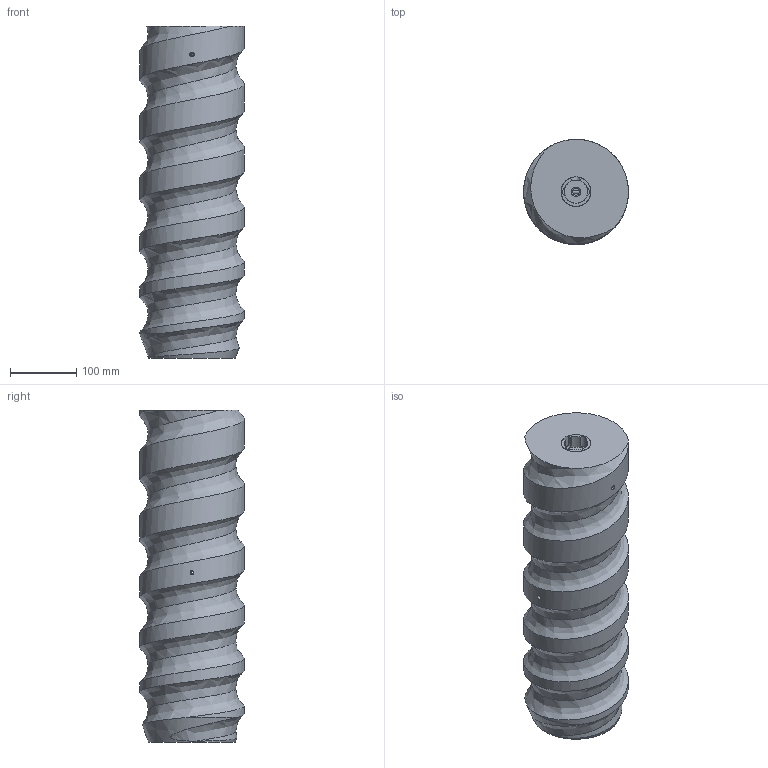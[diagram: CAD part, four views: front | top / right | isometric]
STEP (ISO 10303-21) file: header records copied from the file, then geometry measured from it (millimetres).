
FILE_DESCRIPTION(/* description */ ('Шнек'),/* implementation_level */ '2;1');
FILE_NAME(/* name */ 'B:\Inventor\Проекты\Омск\Ринзер CBI проект Bud 0.44\Файлы\Шнек\STEP\Шнек OMG-R-01-K05.stp',/* time_stamp */ '2021-06-05T20:13:12+07:00',/* author */ ('kolma_arsicqz'),/* organization */ (''),/* preprocessor_version */ 'ST-DEVELOPER v18',/* originating_system */ 'Autodesk Inventor 2020',/* authorisation */ '');
FILE_SCHEMA (('AUTOMOTIVE_DESIGN { 1 0 10303 214 3 1 1 }'));
Length unit declared in the file: millimetre
Products named in the file (13): OMG-R-01-K05; OMG-R-01-020; OMG-R-01-018; OMG-R-01-K06; OMG-R-01-017; DIN 471 - 12x1; DIN 625 SKF - SKF 6001; OMG-R-01-016; OMG-R-01-015; DIN 472 - 28 x 1,2; OMG-R-01-019; ISO 8752 - 6 x 60; DIN 914 - M8 x 30
Assembly tree (15 placements, depth 3):
  OMG-R-01-K05
    OMG-R-01-020
    OMG-R-01-018
    OMG-R-01-K06
      OMG-R-01-017
      DIN 471 - 12x1
      DIN 625 SKF - SKF 6001  x2
      OMG-R-01-016
      OMG-R-01-015
      DIN 472 - 28 x 1,2
    OMG-R-01-019
    ISO 8752 - 6 x 60
    DIN 914 - M8 x 30  x3
Bounding box: 158 x 158 x 500 mm (x, y, z)
Volume: 8206573.4 mm3; surface area: 456293.2 mm2
Topology: 14 solids, 14 shells, 258 faces, 776 edges, 536 vertices
Faces by surface type: plane 95, cylinder 78, torus 36, cone 33, sphere 14, bspline 2
Full cylindrical faces by diameter (mm): 1.7 x2, 2 x2, 6 x4, 6.647 x5, 8 x3, 10.106 x1, 11.5 x1, 12 x4, 12.1 x1, 15.5 x1, 17 x1, 17.12 x4, 22 x1, 22.88 x4, 23 x2, 24.5 x1, 25.3 x6, 28 x4, 29.4 x1, 33 x2, 34 x2, 45 x2, 158 x5
Entity records: 16171 total; most frequent: CARTESIAN_POINT 10404, DIRECTION 1129, ORIENTED_EDGE 1110, EDGE_CURVE 555, AXIS2_PLACEMENT_3D 476, VERTEX_POINT 396, EDGE_LOOP 265, CIRCLE 251
